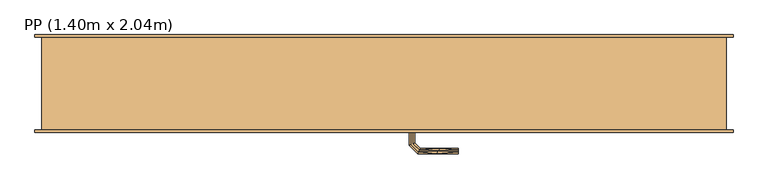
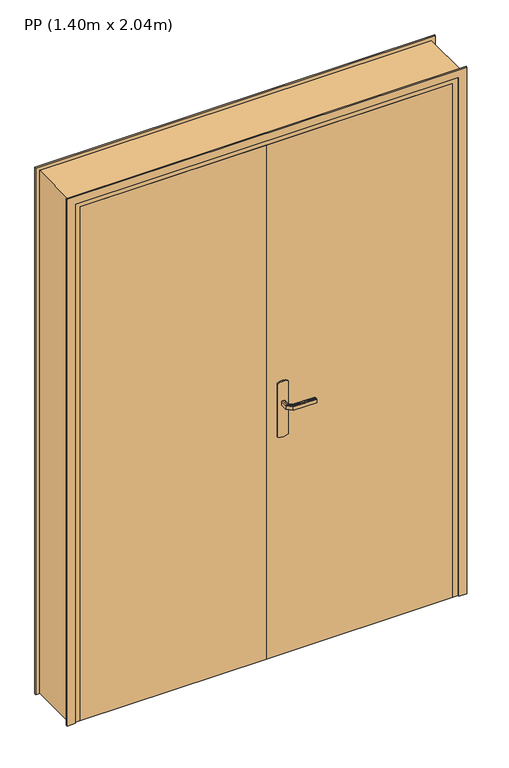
"""IFC4 building model written with IfcOpenShell, lengths in millimetres: door geometry, PP (1.40m x 2.04m)."""

from ifc_helpers import new_model, si_unit, frame, origin, origin_with_axes, place, context, project, spatial, polyline, outline, extrude, faceted_brep, source, transform, mapped, element, save


def pp_1_40m_x_2_04m_7aecf5de(model_context):
    return source(origin(), model_context, "Body", "SolidModel", [
        faceted_brep([(792.9747013, 45.0, 1007.7804408), (789.0, 45.0, 1007.0), (789.0, 45.0, 993.0), (792.9747013, 45.0, 992.2195592), (797.0252987, 45.0, 992.2195592), (801.0, 45.0, 993.0), (801.0, 45.0, 1007.0), (797.0252987, 45.0, 1007.7804408), (801.0, 67.4852045, 993.0), (801.0, 67.4852045, 1007.0), (797.0252987, 69.1315797, 1007.7804408), (810.8389062, 82.9451872, 1007.7804408), (809.1610938, 86.9957845, 1007.7804408), (792.9747013, 70.8093921, 1007.7804408), (789.0, 72.4557673, 1007.0), (789.0, 72.4557673, 993.0), (792.9747013, 70.8093921, 992.2195592), (809.1610938, 86.9957845, 992.2195592), (810.8389062, 82.9451872, 992.2195592), (797.0252987, 69.1315797, 992.2195592), (812.4852814, 78.9704859, 993.0), (812.4852814, 78.9704859, 1007.0), (807.5147186, 90.9704859, 1007.0), (807.5147186, 90.9704859, 993.0), (895.0457837, 78.9704859, 993.0), (895.0457837, 82.9451872, 992.2195592), (895.0457837, 86.9957845, 992.2195592), (895.0457837, 90.9704859, 993.0), (895.0457837, 90.9704859, 1007.0), (895.0457837, 86.9957845, 1007.7804408), (895.0457837, 82.9451872, 1007.7804408), (895.0457837, 78.9704859, 1007.0), (853.7655206, 78.9704859, 993.0), (853.7655325, 78.9704859, 1007.0), (852.9423449, 84.9704859, 1007.8786868), (847.4452058, 90.9704859, 1007.0), (847.4452043, 90.9704859, 993.0), (852.9423451, 84.9704858, 992.1213132)], [[[0, 1, 2, 3, 4, 5, 6, 7]], [[6, 5, 8, 9]], [[9, 10, 7, 6]], [[10, 11, 12, 13, 0, 7]], [[13, 14, 1, 0]], [[2, 1, 14, 15]], [[15, 16, 3, 2]], [[16, 17, 18, 19, 4, 3]], [[19, 8, 5, 4]], [[9, 8, 20, 21]], [[21, 11, 10, 9]], [[12, 22, 14, 13]], [[15, 14, 22, 23]], [[23, 17, 16, 15]], [[18, 20, 8, 19]], [[24, 25, 26, 27, 28, 29, 30, 31]], [[21, 20, 32, 24, 31, 33]], [[33, 30, 34]], [[35, 34, 29]], [[21, 33, 11]], [[33, 31, 30]], [[28, 35, 29]], [[22, 12, 35]], [[35, 12, 34]], [[12, 11, 34]], [[11, 33, 34]], [[29, 34, 30]], [[22, 35, 28, 27, 36, 23]], [[36, 26, 37]], [[27, 26, 36]], [[17, 23, 36]], [[37, 32, 18]], [[20, 18, 32]], [[32, 25, 24]], [[26, 25, 37]], [[25, 32, 37]], [[17, 36, 37]], [[17, 37, 18]]]),
        faceted_brep([(0.0, 0.0, 0.0), (0.0, 200.0, 0.0), (50.0, 200.0, 0.0), (50.0, 40.0, 0.0), (35.0, 40.0, 0.0), (35.0, 0.0, 0.0), (0.0, 0.0, 2075.0), (0.0, 200.0, 2075.0), (1470.0, 200.0, 2075.0), (1470.0, 200.0, 0.0), (1420.0, 200.0, 0.0), (1420.0, 200.0, 2025.0), (50.0, 200.0, 2025.0), (50.0, 40.0, 2025.0), (1420.0, 40.0, 2025.0), (1420.0, 40.0, 0.0), (1435.0, 40.0, 0.0), (1435.0, 40.0, 2040.0), (35.0, 40.0, 2040.0), (35.0, 0.0, 2040.0), (1435.0, 0.0, 2040.0), (1435.0, 0.0, 0.0), (1470.0, 0.0, 0.0), (1470.0, 0.0, 2075.0)], [[[0, 1, 2, 3, 4, 5]], [[1, 0, 6, 7]], [[2, 1, 7, 8, 9, 10, 11, 12]], [[3, 2, 12, 13]], [[4, 3, 13, 14, 15, 16, 17, 18]], [[5, 4, 18, 19]], [[0, 5, 19, 20, 21, 22, 23, 6]], [[8, 23, 22, 9]], [[22, 21, 16, 15, 10, 9]], [[14, 11, 10, 15]], [[20, 17, 16, 21]], [[7, 6, 23, 8]], [[13, 12, 11, 14]], [[19, 18, 17, 20]]]),
        extrude(outline(polyline([(735.0, 40.0), (735.0, 0.0), (35.0, 0.0), (35.0, 40.0), (735.0, 40.0)])), origin_with_axes(), (0.0, 0.0, 1.0), 2040.0),
        extrude(outline(polyline([(866.0039831, 805.3527618), (870.0, 815.0), (1080.0, 815.0), (1083.9960169, 805.3527618), (1085.3589838, 795.0), (1083.9960169, 784.6472382), (1080.0, 775.0), (870.0, 775.0), (866.0039831, 784.6472382), (864.6410162, 795.0), (866.0039831, 805.3527618)])), frame((0.0, 40.0, 0.0), z_axis=(0.0, 1.0, 0.0), x_axis=(0.0, 0.0, 1.0)), (0.0, 0.0, 1.0), 5.0),
        extrude(outline(polyline([(0.0, -15.0), (0.0, 15.0), (2060.0, 15.0), (2060.0, 1455.0), (0.0, 1455.0), (0.0, 1485.0), (2090.0, 1485.0), (2090.0, -15.0), (0.0, -15.0)])), frame((0.0, 200.0, 0.0), z_axis=(0.0, 1.0, 0.0), x_axis=(0.0, 0.0, 1.0)), (0.0, 0.0, 1.0), 5.0),
        extrude(outline(polyline([(0.0, -15.0), (0.0, 15.0), (2060.0, 15.0), (2060.0, 1455.0), (0.0, 1455.0), (0.0, 1485.0), (2090.0, 1485.0), (2090.0, -15.0), (0.0, -15.0)])), frame((0.0, -5.0, 0.0), z_axis=(0.0, 1.0, 0.0), x_axis=(0.0, 0.0, 1.0)), (0.0, 0.0, 1.0), 5.0),
        faceted_brep([(792.9747013, -5.0, 1007.7804408), (797.0252987, -5.0, 1007.7804408), (801.0, -5.0, 1007.0), (801.0, -5.0, 993.0), (797.0252987, -5.0, 992.2195592), (792.9747013, -5.0, 992.2195592), (789.0, -5.0, 993.0), (789.0, -5.0, 1007.0), (789.0, -32.6509507, 1007.0), (792.9747013, -31.0045755, 1007.7804408), (809.0235852, -47.0534593, 1007.7804408), (810.7013975, -43.002862, 1007.7804408), (797.0252987, -29.3267632, 1007.7804408), (801.0, -27.680388, 1007.0), (801.0, -27.680388, 993.0), (797.0252987, -29.3267632, 992.2195592), (810.7013975, -43.002862, 992.2195592), (809.0235852, -47.0534593, 992.2195592), (792.9747013, -31.0045755, 992.2195592), (789.0, -32.6509507, 993.0), (807.37721, -51.0281607, 1007.0), (812.3477727, -39.0281607, 1007.0), (812.3477727, -39.0281607, 993.0), (807.37721, -51.0281607, 993.0), (895.0186406, -51.0281607, 993.0), (895.0186406, -47.0534593, 992.2195592), (895.0186406, -43.002862, 992.2195592), (895.0186406, -39.0281607, 993.0), (895.0186406, -39.0281607, 1007.0), (895.0186406, -43.002862, 1007.7804408), (895.0186406, -47.0534593, 1007.7804408), (895.0186406, -51.0281607, 1007.0), (847.3076972, -51.0281607, 1007.0), (852.8600191, -45.0281607, 1007.8786868), (853.6832067, -39.0281607, 1007.0), (853.6832067, -39.0281607, 993.0), (852.8600189, -45.0281608, 992.1213132), (847.3077002, -51.0281607, 993.0)], [[[0, 1, 2, 3, 4, 5, 6, 7]], [[8, 9, 0, 7]], [[9, 10, 11, 12, 1, 0]], [[12, 13, 2, 1]], [[3, 2, 13, 14]], [[14, 15, 4, 3]], [[15, 16, 17, 18, 5, 4]], [[18, 19, 6, 5]], [[7, 6, 19, 8]], [[20, 10, 9, 8]], [[11, 21, 13, 12]], [[14, 13, 21, 22]], [[22, 16, 15, 14]], [[17, 23, 19, 18]], [[8, 19, 23, 20]], [[24, 25, 26, 27, 28, 29, 30, 31]], [[32, 30, 33]], [[31, 30, 32]], [[10, 20, 32]], [[33, 34, 11]], [[21, 11, 34]], [[34, 29, 28]], [[30, 29, 33]], [[29, 34, 33]], [[10, 32, 33]], [[10, 33, 11]], [[22, 21, 34, 28, 27, 35]], [[35, 26, 36]], [[37, 36, 25]], [[22, 35, 16]], [[35, 27, 26]], [[24, 37, 25]], [[23, 17, 37]], [[37, 17, 36]], [[17, 16, 36]], [[16, 35, 36]], [[25, 36, 26]], [[20, 23, 37, 24, 31, 32]]]),
        extrude(outline(polyline([(866.0039831, 805.3527618), (870.0, 815.0), (1080.0, 815.0), (1083.9960169, 805.3527618), (1085.3589838, 795.0), (1083.9960169, 784.6472382), (1080.0, 775.0), (870.0, 775.0), (866.0039831, 784.6472382), (864.6410162, 795.0), (866.0039831, 805.3527618)])), frame((0.0, -5.0, 0.0), z_axis=(0.0, 1.0, 0.0), x_axis=(0.0, 0.0, 1.0)), (0.0, 0.0, 1.0), 5.0),
        extrude(outline(polyline([(735.0, 40.0), (1435.0, 40.0), (1435.0, 0.0), (735.0, 0.0), (735.0, 40.0)])), origin_with_axes(), (0.0, 0.0, 1.0), 2040.0),
    ])


if __name__ == "__main__":
    model = new_model("IFC4")
    model_context = context("Model", 3, world=origin())
    ifc_project = project(units=[si_unit("LENGTHUNIT", "METRE", prefix="MILLI")], contexts=[model_context])
    site = spatial("IfcSite", under=ifc_project)
    building = spatial("IfcBuilding", under=site)
    placement = place(None, origin())
    pp_1_40m_x_2_04m_shape = pp_1_40m_x_2_04m_7aecf5de(model_context)
    element("IfcDoor", 1, ObjectType="PP (1.40m x 2.04m)", at=placement, inside=building, context=model_context, shape_type="MappedRepresentation", body=[
        mapped(pp_1_40m_x_2_04m_shape, transform((0.0, 0.0, 0.0), x_axis=(1.0, 0.0, 0.0), y_axis=(0.0, 1.0, 0.0), z_axis=(0.0, 0.0, 1.0))),
    ])
    save(model, "model.ifc")
